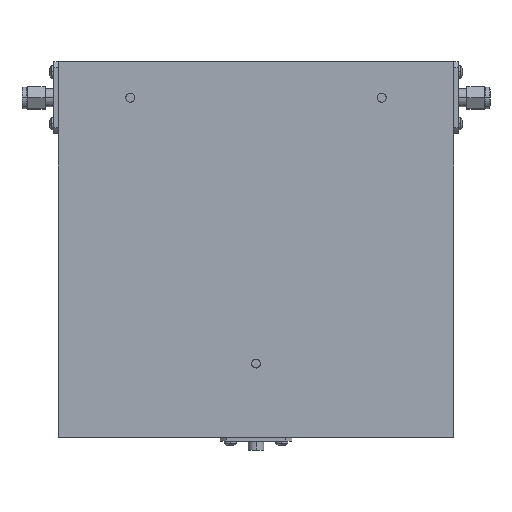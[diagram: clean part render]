
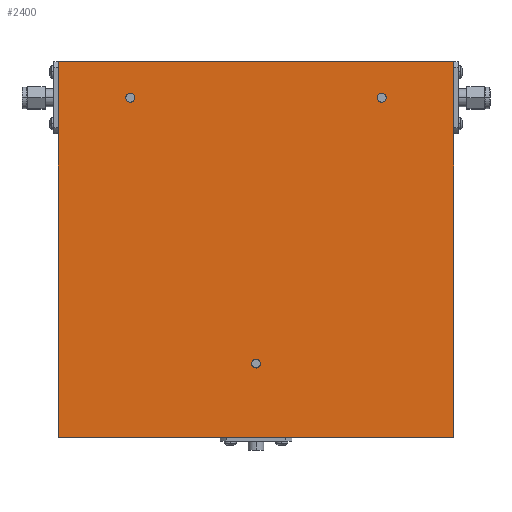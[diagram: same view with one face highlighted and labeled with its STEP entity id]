
A CAD part, top view. The second image highlights one B-rep face of the part: STEP entity #2400.
In plain terms, the highlighted planar face has unit normal (0, 0, 1).
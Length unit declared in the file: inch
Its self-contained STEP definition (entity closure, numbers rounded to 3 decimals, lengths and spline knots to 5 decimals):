
#82 = FACE_OUTER_BOUND ( 'NONE', #928, .T. ) ;
#150 = CIRCLE ( 'NONE', #4072, 0.0625 ) ;
#160 = EDGE_CURVE ( 'NONE', #2480, #1263, #1117, .T. ) ;
#167 = DIRECTION ( 'NONE',  ( -1., 0., 0. ) ) ;
#215 = DIRECTION ( 'NONE',  ( 1., 0., 0. ) ) ;
#325 = CARTESIAN_POINT ( 'NONE',  ( 1.25, 1.25, 0.625 ) ) ;
#367 = EDGE_CURVE ( 'NONE', #3840, #2864, #1170, .T. ) ;
#480 = DIRECTION ( 'NONE',  ( 0., 0., 1. ) ) ;
#596 = EDGE_CURVE ( 'NONE', #1450, #1200, #2722, .T. ) ;
#655 = EDGE_CURVE ( 'NONE', #1717, #2042, #150, .T. ) ;
#703 = DIRECTION ( 'NONE',  ( 0., 1., 0. ) ) ;
#705 = CARTESIAN_POINT ( 'NONE',  ( -1.4375, -2.95, 0.625 ) ) ;
#811 = VECTOR ( 'NONE', #1674, 39.37008 ) ;
#901 = CARTESIAN_POINT ( 'NONE',  ( -4.25, 1.25, 0.625 ) ) ;
#928 = EDGE_LOOP ( 'NONE', ( #1742, #3195, #1720, #4170 ) ) ;
#1025 = LINE ( 'NONE', #1339, #811 ) ;
#1034 = ORIENTED_EDGE ( 'NONE', *, *, #1356, .F. ) ;
#1117 = LINE ( 'NONE', #325, #1744 ) ;
#1170 = CIRCLE ( 'NONE', #1425, 0.0625 ) ;
#1200 = VERTEX_POINT ( 'NONE', #705 ) ;
#1218 = AXIS2_PLACEMENT_3D ( 'NONE', #4346, #1268, #1252 ) ;
#1252 = DIRECTION ( 'NONE',  ( 1., 0., 0. ) ) ;
#1263 = VERTEX_POINT ( 'NONE', #2822 ) ;
#1268 = DIRECTION ( 'NONE',  ( 0., 0., 1. ) ) ;
#1313 = ORIENTED_EDGE ( 'NONE', *, *, #4115, .F. ) ;
#1339 = CARTESIAN_POINT ( 'NONE',  ( -4.25, 1.25, 0.625 ) ) ;
#1342 = ORIENTED_EDGE ( 'NONE', *, *, #3307, .F. ) ;
#1356 = EDGE_CURVE ( 'NONE', #2864, #3840, #4272, .T. ) ;
#1421 = CARTESIAN_POINT ( 'NONE',  ( 0.25, 0.75, 0.625 ) ) ;
#1425 = AXIS2_PLACEMENT_3D ( 'NONE', #1421, #480, #3502 ) ;
#1450 = VERTEX_POINT ( 'NONE', #1851 ) ;
#1674 = DIRECTION ( 'NONE',  ( 0., -1., 0. ) ) ;
#1699 = CIRCLE ( 'NONE', #1218, 0.0625 ) ;
#1717 = VERTEX_POINT ( 'NONE', #2431 ) ;
#1720 = ORIENTED_EDGE ( 'NONE', *, *, #3216, .T. ) ;
#1741 = CIRCLE ( 'NONE', #3920, 0.0625 ) ;
#1742 = ORIENTED_EDGE ( 'NONE', *, *, #160, .T. ) ;
#1744 = VECTOR ( 'NONE', #703, 39.37008 ) ;
#1840 = DIRECTION ( 'NONE',  ( 0., 0., 1. ) ) ;
#1851 = CARTESIAN_POINT ( 'NONE',  ( -1.5625, -2.95, 0.625 ) ) ;
#1978 = FACE_BOUND ( 'NONE', #3039, .T. ) ;
#2042 = VERTEX_POINT ( 'NONE', #3441 ) ;
#2198 = CARTESIAN_POINT ( 'NONE',  ( -1.5, -2.95, 0.625 ) ) ;
#2204 = PLANE ( 'NONE',  #3163 ) ;
#2282 = DIRECTION ( 'NONE',  ( 1., 0., 0. ) ) ;
#2293 = CARTESIAN_POINT ( 'NONE',  ( -4.25, -3.98, 0.625 ) ) ;
#2297 = AXIS2_PLACEMENT_3D ( 'NONE', #3393, #2308, #4322 ) ;
#2303 = DIRECTION ( 'NONE',  ( 1., 0., 0. ) ) ;
#2308 = DIRECTION ( 'NONE',  ( 0., 0., 1. ) ) ;
#2324 = VECTOR ( 'NONE', #167, 39.37008 ) ;
#2365 = LINE ( 'NONE', #901, #2324 ) ;
#2400 = ADVANCED_FACE ( 'NONE', ( #1978, #2755, #3414, #82 ), #2204, .T. ) ;
#2431 = CARTESIAN_POINT ( 'NONE',  ( -3.1875, 0.75, 0.625 ) ) ;
#2440 = ORIENTED_EDGE ( 'NONE', *, *, #596, .F. ) ;
#2480 = VERTEX_POINT ( 'NONE', #3218 ) ;
#2499 = EDGE_LOOP ( 'NONE', ( #3566, #1342 ) ) ;
#2704 = VERTEX_POINT ( 'NONE', #3473 ) ;
#2720 = EDGE_LOOP ( 'NONE', ( #1313, #2440 ) ) ;
#2722 = CIRCLE ( 'NONE', #4237, 0.0625 ) ;
#2755 = FACE_BOUND ( 'NONE', #2720, .T. ) ;
#2821 = DIRECTION ( 'NONE',  ( 1., 0., 0. ) ) ;
#2822 = CARTESIAN_POINT ( 'NONE',  ( 1.25, 1.25, 0.625 ) ) ;
#2842 = VECTOR ( 'NONE', #2303, 39.37008 ) ;
#2854 = CARTESIAN_POINT ( 'NONE',  ( 0.3125, 0.75, 0.625 ) ) ;
#2864 = VERTEX_POINT ( 'NONE', #3147 ) ;
#2942 = DIRECTION ( 'NONE',  ( 0., 0., 1. ) ) ;
#2950 = CARTESIAN_POINT ( 'NONE',  ( -3.25, 0.75, 0.625 ) ) ;
#3039 = EDGE_LOOP ( 'NONE', ( #3884, #1034 ) ) ;
#3059 = LINE ( 'NONE', #2293, #2842 ) ;
#3147 = CARTESIAN_POINT ( 'NONE',  ( 0.1875, 0.75, 0.625 ) ) ;
#3163 = AXIS2_PLACEMENT_3D ( 'NONE', #4224, #1840, #2821 ) ;
#3195 = ORIENTED_EDGE ( 'NONE', *, *, #3993, .T. ) ;
#3216 = EDGE_CURVE ( 'NONE', #3530, #2704, #1025, .T. ) ;
#3218 = CARTESIAN_POINT ( 'NONE',  ( 1.25, -3.98, 0.625 ) ) ;
#3222 = DIRECTION ( 'NONE',  ( 0., 0., 1. ) ) ;
#3307 = EDGE_CURVE ( 'NONE', #2042, #1717, #1699, .T. ) ;
#3393 = CARTESIAN_POINT ( 'NONE',  ( 0.25, 0.75, 0.625 ) ) ;
#3414 = FACE_BOUND ( 'NONE', #2499, .T. ) ;
#3441 = CARTESIAN_POINT ( 'NONE',  ( -3.3125, 0.75, 0.625 ) ) ;
#3473 = CARTESIAN_POINT ( 'NONE',  ( -4.25, -3.98, 0.625 ) ) ;
#3502 = DIRECTION ( 'NONE',  ( 1., 0., 0. ) ) ;
#3530 = VERTEX_POINT ( 'NONE', #3700 ) ;
#3566 = ORIENTED_EDGE ( 'NONE', *, *, #655, .F. ) ;
#3700 = CARTESIAN_POINT ( 'NONE',  ( -4.25, 1.25, 0.625 ) ) ;
#3703 = DIRECTION ( 'NONE',  ( 0., 0., 1. ) ) ;
#3713 = DIRECTION ( 'NONE',  ( 1., 0., 0. ) ) ;
#3840 = VERTEX_POINT ( 'NONE', #2854 ) ;
#3884 = ORIENTED_EDGE ( 'NONE', *, *, #367, .F. ) ;
#3920 = AXIS2_PLACEMENT_3D ( 'NONE', #4347, #3703, #3713 ) ;
#3993 = EDGE_CURVE ( 'NONE', #1263, #3530, #2365, .T. ) ;
#4028 = EDGE_CURVE ( 'NONE', #2704, #2480, #3059, .T. ) ;
#4072 = AXIS2_PLACEMENT_3D ( 'NONE', #2950, #2942, #2282 ) ;
#4115 = EDGE_CURVE ( 'NONE', #1200, #1450, #1741, .T. ) ;
#4170 = ORIENTED_EDGE ( 'NONE', *, *, #4028, .T. ) ;
#4224 = CARTESIAN_POINT ( 'NONE',  ( 0., 0., 0.625 ) ) ;
#4237 = AXIS2_PLACEMENT_3D ( 'NONE', #2198, #3222, #215 ) ;
#4272 = CIRCLE ( 'NONE', #2297, 0.0625 ) ;
#4322 = DIRECTION ( 'NONE',  ( 1., 0., 0. ) ) ;
#4346 = CARTESIAN_POINT ( 'NONE',  ( -3.25, 0.75, 0.625 ) ) ;
#4347 = CARTESIAN_POINT ( 'NONE',  ( -1.5, -2.95, 0.625 ) ) ;
